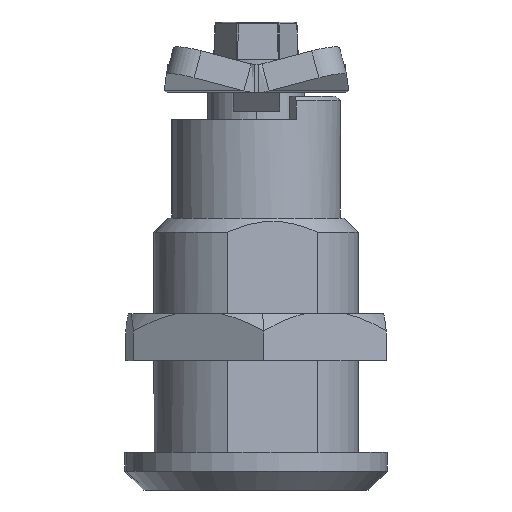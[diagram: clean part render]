
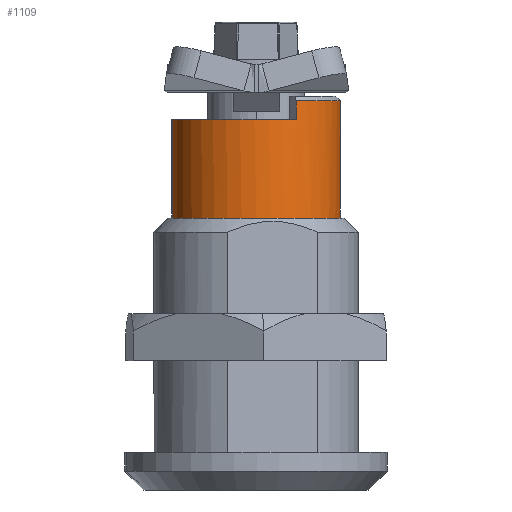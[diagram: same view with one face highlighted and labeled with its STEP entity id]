
A CAD part, left-side view. The second image highlights one B-rep face of the part: STEP entity #1109.
In plain terms, the highlighted cylindrical face has radius 9 mm (diameter 18 mm), a partial arc.
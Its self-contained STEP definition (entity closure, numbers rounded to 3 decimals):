
#1004 = VERTEX_POINT ( 'NONE', #4871 ) ;
#1091 = ORIENTED_EDGE ( 'NONE', *, *, #1092, .F. ) ;
#1092 = EDGE_CURVE ( 'NONE', #1120, #1119, #5057, .T. ) ;
#1093 = ORIENTED_EDGE ( 'NONE', *, *, #1094, .T. ) ;
#1094 = EDGE_CURVE ( 'NONE', #1120, #1095, #5053, .T. ) ;
#1095 = VERTEX_POINT ( 'NONE', #5048 ) ;
#1096 = ORIENTED_EDGE ( 'NONE', *, *, #1097, .F. ) ;
#1097 = EDGE_CURVE ( 'NONE', #1113, #1095, #5047, .T. ) ;
#1109 = ADVANCED_FACE ( 'NONE', ( #5086 ), #5085, .T. ) ;
#1110 = EDGE_LOOP ( 'NONE', ( #1111, #1115, #1117, #1091, #1093, #1096 ) ) ;
#1111 = ORIENTED_EDGE ( 'NONE', *, *, #1112, .T. ) ;
#1112 = EDGE_CURVE ( 'NONE', #1113, #1114, #5084, .T. ) ;
#1113 = VERTEX_POINT ( 'NONE', #5075 ) ;
#1114 = VERTEX_POINT ( 'NONE', #5074 ) ;
#1115 = ORIENTED_EDGE ( 'NONE', *, *, #1116, .T. ) ;
#1116 = EDGE_CURVE ( 'NONE', #1114, #1004, #5072, .T. ) ;
#1117 = ORIENTED_EDGE ( 'NONE', *, *, #1118, .T. ) ;
#1118 = EDGE_CURVE ( 'NONE', #1004, #1119, #5129, .T. ) ;
#1119 = VERTEX_POINT ( 'NONE', #5125 ) ;
#1120 = VERTEX_POINT ( 'NONE', #5124 ) ;
#4871 = CARTESIAN_POINT ( 'NONE',  ( -9., 0., -0.5 ) ) ;
#5044 = DIRECTION ( 'NONE',  ( 0., 0., 1. ) ) ;
#5045 = VECTOR ( 'NONE', #5044, 1000. ) ;
#5046 = CARTESIAN_POINT ( 'NONE',  ( 9., 0., -13. ) ) ;
#5047 = LINE ( 'NONE', #5046, #5045 ) ;
#5048 = CARTESIAN_POINT ( 'NONE',  ( 9., 0., -2.5 ) ) ;
#5049 = DIRECTION ( 'NONE',  ( 1., 0., 0. ) ) ;
#5050 = DIRECTION ( 'NONE',  ( 0., 0., -1. ) ) ;
#5051 = CARTESIAN_POINT ( 'NONE',  ( 0., 0., -2.5 ) ) ;
#5052 = AXIS2_PLACEMENT_3D ( 'NONE', #5051, #5050, #5049 ) ;
#5053 = CIRCLE ( 'NONE', #5052, 9. ) ;
#5054 = DIRECTION ( 'NONE',  ( 0., 0., 1. ) ) ;
#5055 = VECTOR ( 'NONE', #5054, 1000. ) ;
#5056 = CARTESIAN_POINT ( 'NONE',  ( -2.8, 8.553, -13. ) ) ;
#5057 = LINE ( 'NONE', #5056, #5055 ) ;
#5069 = DIRECTION ( 'NONE',  ( 0., 0., 1. ) ) ;
#5070 = VECTOR ( 'NONE', #5069, 1000. ) ;
#5071 = CARTESIAN_POINT ( 'NONE',  ( -9., 0., -13. ) ) ;
#5072 = LINE ( 'NONE', #5071, #5070 ) ;
#5073 = CARTESIAN_POINT ( 'NONE',  ( 0., 0., -0.5 ) ) ;
#5074 = CARTESIAN_POINT ( 'NONE',  ( -9., 0., -13. ) ) ;
#5075 = CARTESIAN_POINT ( 'NONE',  ( 9., 0., -13. ) ) ;
#5076 = DIRECTION ( 'NONE',  ( 1., 0., 0. ) ) ;
#5077 = DIRECTION ( 'NONE',  ( 0., 0., 1. ) ) ;
#5078 = CARTESIAN_POINT ( 'NONE',  ( 0., 0., -13. ) ) ;
#5079 = AXIS2_PLACEMENT_3D ( 'NONE', #5078, #5077, #5076 ) ;
#5080 = DIRECTION ( 'NONE',  ( 1., 0., 0. ) ) ;
#5081 = DIRECTION ( 'NONE',  ( 0., 0., 1. ) ) ;
#5082 = CARTESIAN_POINT ( 'NONE',  ( 0., 0., -13. ) ) ;
#5083 = AXIS2_PLACEMENT_3D ( 'NONE', #5082, #5081, #5080 ) ;
#5084 = CIRCLE ( 'NONE', #5079, 9. ) ;
#5085 = CYLINDRICAL_SURFACE ( 'NONE', #5083, 9. ) ;
#5086 = FACE_OUTER_BOUND ( 'NONE', #1110, .T. ) ;
#5124 = CARTESIAN_POINT ( 'NONE',  ( -2.8, 8.553, -2.5 ) ) ;
#5125 = CARTESIAN_POINT ( 'NONE',  ( -2.8, 8.553, -0.5 ) ) ;
#5126 = DIRECTION ( 'NONE',  ( 1., 0., 0. ) ) ;
#5127 = DIRECTION ( 'NONE',  ( 0., 0., -1. ) ) ;
#5128 = AXIS2_PLACEMENT_3D ( 'NONE', #5073, #5127, #5126 ) ;
#5129 = CIRCLE ( 'NONE', #5128, 9. ) ;
